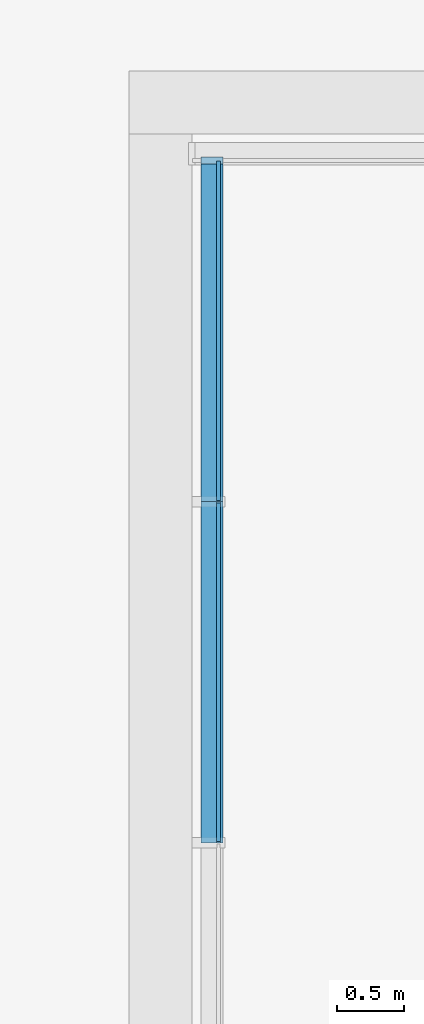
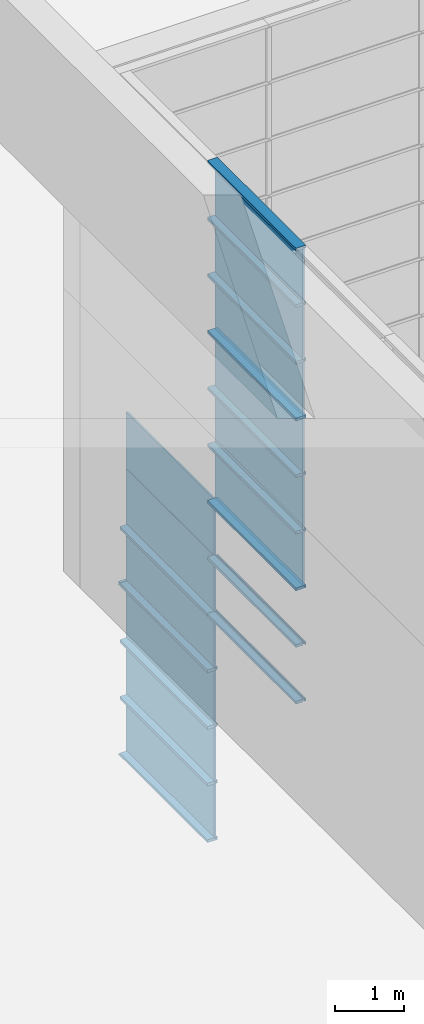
# One storey, part 27 of 105: 29 building element parts, 4 elements without a shape of their own.
"""IFC4 building model written with IfcOpenShell, lengths in millimetres."""

from ifc_helpers import new_model, entity, si_unit, converted_unit, derived_unit, direction, frame, origin_with_axes, place, context, subcontext, project, spatial, triangles, material, element, aggregate, save


model = new_model("IFC4")

# Units and contexts
model_context = context("Model", 3, precision=1e-05, world=origin_with_axes(), true_north=direction((0.0, 1.0)))
body_context = subcontext(model_context, "Body", "Model", "MODEL_VIEW")
ifc_project = project(units=[si_unit("LENGTHUNIT", "METRE", prefix="MILLI"), si_unit("AREAUNIT", "SQUARE_METRE"), si_unit("VOLUMEUNIT", "CUBIC_METRE"), converted_unit("PLANEANGLEUNIT", "DEGREE", entity("IfcLengthMeasure", 0.017453), si_unit("PLANEANGLEUNIT", "RADIAN"), dimensions=[0, 0, 0, 0, 0, 0, 0]), si_unit("SOLIDANGLEUNIT", "STERADIAN"), si_unit("MASSUNIT", "GRAM"), si_unit("TIMEUNIT", "SECOND"), si_unit("THERMODYNAMICTEMPERATUREUNIT", "DEGREE_CELSIUS"), si_unit("LUMINOUSINTENSITYUNIT", "LUMEN"), si_unit("POWERUNIT", "WATT"), derived_unit("THERMALTRANSMITTANCEUNIT", [(si_unit("POWERUNIT", "WATT"), 1), (si_unit("THERMODYNAMICTEMPERATUREUNIT", "KELVIN"), -1), (si_unit("AREAUNIT", "SQUARE_METRE"), -1)])], contexts=[model_context])

# Site, building, storey
site_placement = place(None, origin_with_axes())
site = spatial("IfcSite", under=ifc_project, at=site_placement, Name="Default Site", CompositionType="ELEMENT")
building_placement = place(site_placement, origin_with_axes())
building = spatial("IfcBuilding", under=site, at=building_placement, Name="Default Building", CompositionType="ELEMENT")
storey_placement = place(building_placement, origin_with_axes())
storey = spatial("IfcBuildingStorey", under=building, at=storey_placement, Name="OG - Story", CompositionType="ELEMENT", Elevation=0.0)

# Curtain wall, building element parts
curtain_wall_1_placement = place(storey_placement, origin_with_axes())
curtain_wall_1 = element("IfcCurtainWall", 1, at=curtain_wall_1_placement, inside=storey, Name="Fassade-006", PredefinedType="NOTDEFINED")
ifc_material_1 = material(Name="Normalglas")
building_element_part_1_placement = place(curtain_wall_1_placement, frame((51421.391327, -39309.262838, 0.0), z_axis=(0.0, 0.0, 1.0), x_axis=(1.0, 0.0, 0.0)))
building_element_part_1 = element("IfcBuildingElementPart", 2, at=building_element_part_1_placement, material=ifc_material_1, Name="Normalglas", PredefinedType="NOTDEFINED", context=body_context, shape_type="Tessellation", body=[
    triangles([(-14.999, 11515.0, 995.0), (-14.999, 8970.0, 995.0), (15.0, 8970.0, 995.0), (15.0, 11515.0, 995.0), (-14.999, 11515.0, 5.0), (-14.999, 8970.0, 5.0), (15.0, 8970.0, 5.0), (15.0, 11515.0, 5.0)], [[1, 2, 3], [1, 3, 4], [1, 5, 6], [1, 6, 2], [2, 6, 7], [2, 7, 3], [4, 3, 7], [4, 7, 8], [5, 1, 4], [5, 4, 8], [6, 5, 8], [6, 8, 7]], closed=False),
])
building_element_part_2_placement = place(curtain_wall_1_placement, frame((51421.391327, -39309.262838, 0.0), z_axis=(0.0, 0.0, 1.0), x_axis=(1.0, 0.0, 0.0)))
building_element_part_2 = element("IfcBuildingElementPart", 3, at=building_element_part_2_placement, material=ifc_material_1, Name="Normalglas", PredefinedType="NOTDEFINED", context=body_context, shape_type="Tessellation", body=[
    triangles([(-14.999, 11515.0, 1995.0), (-14.999, 8970.0, 1995.0), (15.0, 8970.0, 1995.0), (15.0, 11515.0, 1995.0), (-14.999, 11515.0, 1005.0), (-14.999, 8970.0, 1005.0), (15.0, 8970.0, 1005.0), (15.0, 11515.0, 1005.0)], [[1, 2, 3], [1, 3, 4], [1, 5, 6], [1, 6, 2], [2, 6, 7], [2, 7, 3], [4, 3, 7], [4, 7, 8], [5, 1, 4], [5, 4, 8], [6, 5, 8], [6, 8, 7]], closed=False),
])
building_element_part_3_placement = place(curtain_wall_1_placement, frame((51421.391327, -39309.262838, 0.0), z_axis=(0.0, 0.0, 1.0), x_axis=(1.0, 0.0, 0.0)))
building_element_part_3 = element("IfcBuildingElementPart", 4, at=building_element_part_3_placement, material=ifc_material_1, Name="Normalglas", PredefinedType="NOTDEFINED", context=body_context, shape_type="Tessellation", body=[
    triangles([(-14.999, 11515.0, 2995.0), (-14.999, 8970.0, 2995.0), (15.0, 8970.0, 2995.0), (15.0, 11515.0, 2995.0), (-14.999, 11515.0, 2005.0), (-14.999, 8970.0, 2005.0), (15.0, 8970.0, 2005.0), (15.0, 11515.0, 2005.0)], [[1, 2, 3], [1, 3, 4], [1, 5, 6], [1, 6, 2], [2, 6, 7], [2, 7, 3], [4, 3, 7], [4, 7, 8], [5, 1, 4], [5, 4, 8], [6, 5, 8], [6, 8, 7]], closed=False),
])
ifc_material_2 = material(Name="Blech")
building_element_part_4_placement = place(curtain_wall_1_placement, frame((51421.391327, -39309.262838, 0.0), z_axis=(0.0, 0.0, 1.0), x_axis=(1.0, 0.0, 0.0)))
building_element_part_4 = element("IfcBuildingElementPart", 5, at=building_element_part_4_placement, material=ifc_material_2, Name="Blech", PredefinedType="NOTDEFINED", context=body_context, shape_type="Tessellation", body=[
    triangles([(15.0, 11515.0, 5.0), (-14.999, 11515.0, 5.0), (-132.999, 11545.0, -24.999), (35.0, 11545.0, -24.999), (35.0, 11495.0, 25.0), (15.0, 11495.0, 25.0), (-132.999, 11495.0, 25.0), (-14.999, 11495.0, 25.0), (-14.999, 8960.0, 5.0), (15.0, 8960.0, 5.0), (15.0, 8960.0, 25.0), (35.0, 8960.0, 25.0), (35.0, 8960.0, -24.999), (-132.999, 8960.0, -24.999), (-132.999, 8960.0, 25.0), (-14.999, 8960.0, 25.0)], [[1, 2, 3], [1, 3, 4], [1, 4, 5], [1, 5, 6], [7, 3, 2], [7, 2, 8], [1, 2, 9], [1, 9, 10], [11, 6, 1], [11, 1, 10], [6, 11, 12], [6, 12, 5], [13, 4, 5], [13, 5, 12], [14, 3, 4], [14, 4, 13], [15, 7, 3], [15, 3, 14], [16, 8, 7], [16, 7, 15], [2, 8, 16], [2, 16, 9], [16, 15, 9], [9, 15, 14], [9, 14, 10], [10, 14, 13], [10, 13, 12], [10, 12, 11]], closed=False),
])
building_element_part_5_placement = place(curtain_wall_1_placement, frame((51421.391327, -39309.262838, 0.0), z_axis=(0.0, 0.0, 1.0), x_axis=(1.0, 0.0, 0.0)))
building_element_part_5 = element("IfcBuildingElementPart", 6, at=building_element_part_5_placement, material=ifc_material_2, Name="Blech", PredefinedType="NOTDEFINED", context=body_context, shape_type="Tessellation", body=[
    triangles([(15.0, 11495.0, 1025.0), (35.0, 11495.0, 1025.0), (15.0, 11495.0, 1005.0), (15.0, 11495.0, 995.0), (-14.999, 11495.0, 1005.0), (-132.999, 11495.0, 1025.0), (-14.999, 11495.0, 1025.0), (35.0, 11495.0, 975.0), (15.0, 11495.0, 975.0), (-14.999, 11495.0, 995.0), (-14.999, 11495.0, 975.0), (-132.999, 11495.0, 975.0), (-14.999, 8960.0, 995.0), (-14.999, 8960.0, 975.0), (-132.999, 8960.0, 975.0), (-132.999, 8960.0, 1025.0), (-14.999, 8960.0, 1025.0), (-14.999, 8960.0, 1005.0), (15.0, 8960.0, 1005.0), (15.0, 8960.0, 1025.0), (35.0, 8960.0, 1025.0), (35.0, 8960.0, 975.0), (15.0, 8960.0, 975.0), (15.0, 8960.0, 995.0)], [[1, 2, 3], [3, 2, 4], [3, 4, 5], [5, 4, 6], [5, 6, 7], [8, 9, 4], [8, 4, 2], [6, 4, 10], [6, 10, 11], [6, 11, 12], [11, 10, 13], [11, 13, 14], [11, 14, 15], [11, 15, 12], [6, 12, 15], [6, 15, 16], [7, 6, 16], [7, 16, 17], [7, 17, 18], [7, 18, 5], [5, 18, 19], [5, 19, 3], [1, 3, 19], [1, 19, 20], [20, 21, 2], [20, 2, 1], [8, 2, 21], [8, 21, 22], [23, 9, 8], [23, 8, 22], [4, 9, 23], [4, 23, 24], [10, 4, 24], [10, 24, 13], [17, 16, 18], [18, 16, 13], [18, 13, 19], [19, 13, 24], [19, 24, 21], [21, 24, 23], [21, 23, 22], [15, 14, 13], [15, 13, 16], [19, 21, 20]], closed=False),
])
building_element_part_6_placement = place(curtain_wall_1_placement, frame((51421.391327, -39309.262838, 0.0), z_axis=(0.0, 0.0, 1.0), x_axis=(1.0, 0.0, 0.0)))
building_element_part_6 = element("IfcBuildingElementPart", 7, at=building_element_part_6_placement, material=ifc_material_2, Name="Blech", PredefinedType="NOTDEFINED", context=body_context, shape_type="Tessellation", body=[
    triangles([(15.0, 11495.0, 2025.0), (35.0, 11495.0, 2025.0), (15.0, 11495.0, 2005.0), (15.0, 11495.0, 1995.0), (-14.999, 11495.0, 2005.0), (-132.999, 11495.0, 2025.0), (-14.999, 11495.0, 2025.0), (35.0, 11495.0, 1975.0), (15.0, 11495.0, 1975.0), (-14.999, 11495.0, 1995.0), (-14.999, 11495.0, 1975.0), (-132.999, 11495.0, 1975.0), (-14.999, 8960.0, 1995.0), (-14.999, 8960.0, 1975.0), (-132.999, 8960.0, 1975.0), (-132.999, 8960.0, 2025.0), (-14.999, 8960.0, 2025.0), (-14.999, 8960.0, 2005.0), (15.0, 8960.0, 2005.0), (15.0, 8960.0, 2025.0), (35.0, 8960.0, 2025.0), (35.0, 8960.0, 1975.0), (15.0, 8960.0, 1975.0), (15.0, 8960.0, 1995.0)], [[1, 2, 3], [3, 2, 4], [3, 4, 5], [5, 4, 6], [5, 6, 7], [8, 9, 4], [8, 4, 2], [6, 4, 10], [6, 10, 11], [6, 11, 12], [11, 10, 13], [11, 13, 14], [11, 14, 15], [11, 15, 12], [6, 12, 15], [6, 15, 16], [7, 6, 16], [7, 16, 17], [7, 17, 18], [7, 18, 5], [5, 18, 19], [5, 19, 3], [1, 3, 19], [1, 19, 20], [20, 21, 2], [20, 2, 1], [8, 2, 21], [8, 21, 22], [23, 9, 8], [23, 8, 22], [4, 9, 23], [4, 23, 24], [10, 4, 24], [10, 24, 13], [17, 16, 18], [18, 16, 13], [18, 13, 19], [19, 13, 24], [19, 24, 21], [21, 24, 23], [21, 23, 22], [15, 14, 13], [15, 13, 16], [19, 21, 20]], closed=False),
])
building_element_part_7_placement = place(curtain_wall_1_placement, frame((51421.391327, -39309.262838, 0.0), z_axis=(0.0, 0.0, 1.0), x_axis=(1.0, 0.0, 0.0)))
building_element_part_7 = element("IfcBuildingElementPart", 8, at=building_element_part_7_placement, material=ifc_material_2, Name="Blech", PredefinedType="NOTDEFINED", context=body_context, shape_type="Tessellation", body=[
    triangles([(15.0, 11515.0, 2995.0), (-14.999, 11515.0, 2995.0), (-132.999, 11545.0, 3025.0), (35.0, 11545.0, 3025.0), (35.0, 11495.0, 2975.0), (15.0, 11495.0, 2975.0), (-14.999, 11495.0, 2975.0), (-132.999, 11495.0, 2975.0), (-14.999, 8960.0, 2995.0), (-14.999, 8960.0, 2975.0), (-132.999, 8960.0, 2975.0), (-132.999, 8960.0, 3025.0), (35.0, 8960.0, 3025.0), (35.0, 8960.0, 2975.0), (15.0, 8960.0, 2975.0), (15.0, 8960.0, 2995.0)], [[1, 2, 3], [1, 3, 4], [1, 4, 5], [1, 5, 6], [7, 8, 3], [7, 3, 2], [2, 9, 10], [2, 10, 7], [10, 11, 8], [10, 8, 7], [11, 12, 3], [11, 3, 8], [12, 13, 4], [12, 4, 3], [13, 14, 5], [13, 5, 4], [6, 5, 14], [6, 14, 15], [15, 16, 1], [15, 1, 6], [1, 16, 9], [1, 9, 2], [16, 9, 12], [16, 12, 13], [16, 13, 14], [16, 14, 15], [10, 11, 12], [10, 12, 9]], closed=False),
])
aggregate(curtain_wall_1, [building_element_part_1, building_element_part_2, building_element_part_3, building_element_part_4, building_element_part_5, building_element_part_6, building_element_part_7])

curtain_wall_2_placement = place(storey_placement, origin_with_axes())
curtain_wall_2 = element("IfcCurtainWall", 9, at=curtain_wall_2_placement, inside=storey, Name="Fassade-006", PredefinedType="NOTDEFINED")
building_element_part_8_placement = place(curtain_wall_2_placement, frame((51421.391327, -39309.262838, 3000.0), z_axis=(0.0, 0.0, 1.0), x_axis=(1.0, 0.0, 0.0)))
building_element_part_8 = element("IfcBuildingElementPart", 10, at=building_element_part_8_placement, material=ifc_material_1, Name="Normalglas", PredefinedType="NOTDEFINED", context=body_context, shape_type="Tessellation", body=[
    triangles([(-14.999, 11515.0, 995.0), (-14.999, 8970.0, 995.0), (15.0, 8970.0, 995.0), (15.0, 11515.0, 995.0), (-14.999, 11515.0, 5.0), (-14.999, 8970.0, 5.0), (15.0, 8970.0, 5.0), (15.0, 11515.0, 5.0)], [[1, 2, 3], [1, 3, 4], [1, 5, 6], [1, 6, 2], [2, 6, 7], [2, 7, 3], [4, 3, 7], [4, 7, 8], [5, 1, 4], [5, 4, 8], [6, 5, 8], [6, 8, 7]], closed=False),
])
building_element_part_9_placement = place(curtain_wall_2_placement, frame((51421.391327, -39309.262838, 3000.0), z_axis=(0.0, 0.0, 1.0), x_axis=(1.0, 0.0, 0.0)))
building_element_part_9 = element("IfcBuildingElementPart", 11, at=building_element_part_9_placement, material=ifc_material_1, Name="Normalglas", PredefinedType="NOTDEFINED", context=body_context, shape_type="Tessellation", body=[
    triangles([(-14.999, 11515.0, 1995.0), (-14.999, 8970.0, 1995.0), (15.0, 8970.0, 1995.0), (15.0, 11515.0, 1995.0), (-14.999, 11515.0, 1005.0), (-14.999, 8970.0, 1005.0), (15.0, 8970.0, 1005.0), (15.0, 11515.0, 1005.0)], [[1, 2, 3], [1, 3, 4], [1, 5, 6], [1, 6, 2], [2, 6, 7], [2, 7, 3], [4, 3, 7], [4, 7, 8], [5, 1, 4], [5, 4, 8], [6, 5, 8], [6, 8, 7]], closed=False),
])
building_element_part_10_placement = place(curtain_wall_2_placement, frame((51421.391327, -39309.262838, 3000.0), z_axis=(0.0, 0.0, 1.0), x_axis=(1.0, 0.0, 0.0)))
building_element_part_10 = element("IfcBuildingElementPart", 12, at=building_element_part_10_placement, material=ifc_material_1, Name="Normalglas", PredefinedType="NOTDEFINED", context=body_context, shape_type="Tessellation", body=[
    triangles([(-14.999, 11515.0, 2995.0), (-14.999, 8970.0, 2995.0), (15.0, 8970.0, 2995.0), (15.0, 11515.0, 2995.0), (-14.999, 11515.0, 2005.0), (-14.999, 8970.0, 2005.0), (15.0, 8970.0, 2005.0), (15.0, 11515.0, 2005.0)], [[1, 2, 3], [1, 3, 4], [1, 5, 6], [1, 6, 2], [2, 6, 7], [2, 7, 3], [4, 3, 7], [4, 7, 8], [5, 1, 4], [5, 4, 8], [6, 5, 8], [6, 8, 7]], closed=False),
])
building_element_part_11_placement = place(curtain_wall_2_placement, frame((51421.391327, -39309.262838, 3000.0), z_axis=(0.0, 0.0, 1.0), x_axis=(1.0, 0.0, 0.0)))
building_element_part_11 = element("IfcBuildingElementPart", 13, at=building_element_part_11_placement, material=ifc_material_2, Name="Blech", PredefinedType="NOTDEFINED", context=body_context, shape_type="Tessellation", body=[
    triangles([(15.0, 11515.0, 5.0), (-14.999, 11515.0, 5.0), (-132.999, 11545.0, -24.999), (35.0, 11545.0, -24.999), (35.0, 11495.0, 25.0), (15.0, 11495.0, 25.0), (-132.999, 11495.0, 25.0), (-14.999, 11495.0, 25.0), (-14.999, 8960.0, 5.0), (15.0, 8960.0, 5.0), (15.0, 8960.0, 25.0), (35.0, 8960.0, 25.0), (35.0, 8960.0, -24.999), (-132.999, 8960.0, -24.999), (-132.999, 8960.0, 25.0), (-14.999, 8960.0, 25.0)], [[1, 2, 3], [1, 3, 4], [1, 4, 5], [1, 5, 6], [7, 3, 2], [7, 2, 8], [1, 2, 9], [1, 9, 10], [11, 6, 1], [11, 1, 10], [6, 11, 12], [6, 12, 5], [13, 4, 5], [13, 5, 12], [14, 3, 4], [14, 4, 13], [15, 7, 3], [15, 3, 14], [16, 8, 7], [16, 7, 15], [2, 8, 16], [2, 16, 9], [16, 15, 9], [9, 15, 14], [9, 14, 10], [10, 14, 13], [10, 13, 12], [10, 12, 11]], closed=False),
])
building_element_part_12_placement = place(curtain_wall_2_placement, frame((51421.391327, -39309.262838, 3000.0), z_axis=(0.0, 0.0, 1.0), x_axis=(1.0, 0.0, 0.0)))
building_element_part_12 = element("IfcBuildingElementPart", 14, at=building_element_part_12_placement, material=ifc_material_2, Name="Blech", PredefinedType="NOTDEFINED", context=body_context, shape_type="Tessellation", body=[
    triangles([(15.0, 8960.0, 1025.0), (35.0, 8960.0, 1025.0), (15.0, 8960.0, 1005.0), (15.0, 8960.0, 995.0), (-14.999, 8960.0, 1005.0), (-132.999, 8960.0, 1025.0), (-14.999, 8960.0, 1025.0), (35.0, 8960.0, 975.0), (15.0, 8960.0, 975.0), (-14.999, 8960.0, 995.0), (-14.999, 8960.0, 975.0), (-132.999, 8960.0, 975.0), (-14.999, 6400.0, 995.0), (-14.999, 6400.0, 975.0), (-132.999, 6400.0, 975.0), (-132.999, 6400.0, 1025.0), (-14.999, 6400.0, 1025.0), (-14.999, 6400.0, 1005.0), (15.0, 6400.0, 1005.0), (15.0, 6400.0, 1025.0), (35.0, 6400.0, 1025.0), (35.0, 6400.0, 975.0), (15.0, 6400.0, 975.0), (15.0, 6400.0, 995.0)], [[1, 2, 3], [3, 2, 4], [3, 4, 5], [5, 4, 6], [5, 6, 7], [8, 9, 4], [8, 4, 2], [6, 4, 10], [6, 10, 11], [6, 11, 12], [11, 10, 13], [11, 13, 14], [11, 14, 15], [11, 15, 12], [6, 12, 15], [6, 15, 16], [7, 6, 16], [7, 16, 17], [7, 17, 18], [7, 18, 5], [5, 18, 19], [5, 19, 3], [1, 3, 19], [1, 19, 20], [20, 21, 2], [20, 2, 1], [8, 2, 21], [8, 21, 22], [23, 9, 8], [23, 8, 22], [4, 9, 23], [4, 23, 24], [10, 4, 24], [10, 24, 13], [17, 16, 18], [18, 16, 13], [18, 13, 19], [19, 13, 24], [19, 24, 21], [21, 24, 23], [21, 23, 22], [15, 14, 13], [15, 13, 16], [19, 21, 20]], closed=False),
])
building_element_part_13_placement = place(curtain_wall_2_placement, frame((51421.391327, -39309.262838, 3000.0), z_axis=(0.0, 0.0, 1.0), x_axis=(1.0, 0.0, 0.0)))
building_element_part_13 = element("IfcBuildingElementPart", 15, at=building_element_part_13_placement, material=ifc_material_2, Name="Blech", PredefinedType="NOTDEFINED", context=body_context, shape_type="Tessellation", body=[
    triangles([(15.0, 11495.0, 1025.0), (35.0, 11495.0, 1025.0), (15.0, 11495.0, 1005.0), (15.0, 11495.0, 995.0), (-14.999, 11495.0, 1005.0), (-132.999, 11495.0, 1025.0), (-14.999, 11495.0, 1025.0), (35.0, 11495.0, 975.0), (15.0, 11495.0, 975.0), (-14.999, 11495.0, 995.0), (-14.999, 11495.0, 975.0), (-132.999, 11495.0, 975.0), (-14.999, 8960.0, 995.0), (-14.999, 8960.0, 975.0), (-132.999, 8960.0, 975.0), (-132.999, 8960.0, 1025.0), (-14.999, 8960.0, 1025.0), (-14.999, 8960.0, 1005.0), (15.0, 8960.0, 1005.0), (15.0, 8960.0, 1025.0), (35.0, 8960.0, 1025.0), (35.0, 8960.0, 975.0), (15.0, 8960.0, 975.0), (15.0, 8960.0, 995.0)], [[1, 2, 3], [3, 2, 4], [3, 4, 5], [5, 4, 6], [5, 6, 7], [8, 9, 4], [8, 4, 2], [6, 4, 10], [6, 10, 11], [6, 11, 12], [11, 10, 13], [11, 13, 14], [11, 14, 15], [11, 15, 12], [6, 12, 15], [6, 15, 16], [7, 6, 16], [7, 16, 17], [7, 17, 18], [7, 18, 5], [5, 18, 19], [5, 19, 3], [1, 3, 19], [1, 19, 20], [20, 21, 2], [20, 2, 1], [8, 2, 21], [8, 21, 22], [23, 9, 8], [23, 8, 22], [4, 9, 23], [4, 23, 24], [10, 4, 24], [10, 24, 13], [17, 16, 18], [18, 16, 13], [18, 13, 19], [19, 13, 24], [19, 24, 21], [21, 24, 23], [21, 23, 22], [15, 14, 13], [15, 13, 16], [19, 21, 20]], closed=False),
])
building_element_part_14_placement = place(curtain_wall_2_placement, frame((51421.391327, -39309.262838, 3000.0), z_axis=(0.0, 0.0, 1.0), x_axis=(1.0, 0.0, 0.0)))
building_element_part_14 = element("IfcBuildingElementPart", 16, at=building_element_part_14_placement, material=ifc_material_2, Name="Blech", PredefinedType="NOTDEFINED", context=body_context, shape_type="Tessellation", body=[
    triangles([(15.0, 8960.0, 2025.0), (35.0, 8960.0, 2025.0), (15.0, 8960.0, 2005.0), (15.0, 8960.0, 1995.0), (-14.999, 8960.0, 2005.0), (-132.999, 8960.0, 2025.0), (-14.999, 8960.0, 2025.0), (35.0, 8960.0, 1975.0), (15.0, 8960.0, 1975.0), (-14.999, 8960.0, 1995.0), (-14.999, 8960.0, 1975.0), (-132.999, 8960.0, 1975.0), (-14.999, 6400.0, 1995.0), (-14.999, 6400.0, 1975.0), (-132.999, 6400.0, 1975.0), (-132.999, 6400.0, 2025.0), (-14.999, 6400.0, 2025.0), (-14.999, 6400.0, 2005.0), (15.0, 6400.0, 2005.0), (15.0, 6400.0, 2025.0), (35.0, 6400.0, 2025.0), (35.0, 6400.0, 1975.0), (15.0, 6400.0, 1975.0), (15.0, 6400.0, 1995.0)], [[1, 2, 3], [3, 2, 4], [3, 4, 5], [5, 4, 6], [5, 6, 7], [8, 9, 4], [8, 4, 2], [6, 4, 10], [6, 10, 11], [6, 11, 12], [11, 10, 13], [11, 13, 14], [11, 14, 15], [11, 15, 12], [6, 12, 15], [6, 15, 16], [7, 6, 16], [7, 16, 17], [7, 17, 18], [7, 18, 5], [5, 18, 19], [5, 19, 3], [1, 3, 19], [1, 19, 20], [20, 21, 2], [20, 2, 1], [8, 2, 21], [8, 21, 22], [23, 9, 8], [23, 8, 22], [4, 9, 23], [4, 23, 24], [10, 4, 24], [10, 24, 13], [17, 16, 18], [18, 16, 13], [18, 13, 19], [19, 13, 24], [19, 24, 21], [21, 24, 23], [21, 23, 22], [15, 14, 13], [15, 13, 16], [19, 21, 20]], closed=False),
])
building_element_part_15_placement = place(curtain_wall_2_placement, frame((51421.391327, -39309.262838, 3000.0), z_axis=(0.0, 0.0, 1.0), x_axis=(1.0, 0.0, 0.0)))
building_element_part_15 = element("IfcBuildingElementPart", 17, at=building_element_part_15_placement, material=ifc_material_2, Name="Blech", PredefinedType="NOTDEFINED", context=body_context, shape_type="Tessellation", body=[
    triangles([(15.0, 8960.0, 2995.0), (-14.999, 8960.0, 2995.0), (-132.999, 8960.0, 3025.0), (35.0, 8960.0, 3025.0), (35.0, 8960.0, 2975.0), (15.0, 8960.0, 2975.0), (-14.999, 8960.0, 2975.0), (-132.999, 8960.0, 2975.0), (-14.999, 6400.0, 2995.0), (-14.999, 6400.0, 2975.0), (-132.999, 6400.0, 2975.0), (-132.999, 6400.0, 3025.0), (35.0, 6400.0, 3025.0), (35.0, 6400.0, 2975.0), (15.0, 6400.0, 2975.0), (15.0, 6400.0, 2995.0)], [[1, 2, 3], [1, 3, 4], [1, 4, 5], [1, 5, 6], [7, 8, 3], [7, 3, 2], [2, 9, 10], [2, 10, 7], [10, 11, 8], [10, 8, 7], [11, 12, 3], [11, 3, 8], [12, 13, 4], [12, 4, 3], [13, 14, 5], [13, 5, 4], [6, 5, 14], [6, 14, 15], [15, 16, 1], [15, 1, 6], [1, 16, 9], [1, 9, 2], [16, 9, 12], [16, 12, 13], [16, 13, 14], [16, 14, 15], [10, 11, 12], [10, 12, 9]], closed=False),
])
aggregate(curtain_wall_2, [building_element_part_8, building_element_part_9, building_element_part_10, building_element_part_11, building_element_part_12, building_element_part_13, building_element_part_14, building_element_part_15])

curtain_wall_3_placement = place(storey_placement, origin_with_axes())
curtain_wall_3 = element("IfcCurtainWall", 18, at=curtain_wall_3_placement, inside=storey, Name="Fassade-006", PredefinedType="NOTDEFINED")
building_element_part_16_placement = place(curtain_wall_3_placement, frame((51421.391327, -39309.262838, 6000.0), z_axis=(0.0, 0.0, 1.0), x_axis=(1.0, 0.0, 0.0)))
building_element_part_16 = element("IfcBuildingElementPart", 19, at=building_element_part_16_placement, material=ifc_material_1, Name="Normalglas", PredefinedType="NOTDEFINED", context=body_context, shape_type="Tessellation", body=[
    triangles([(-14.999, 8950.0, 995.0), (-14.999, 6410.0, 995.0), (15.0, 6410.0, 995.0), (15.0, 8950.0, 995.0), (-14.999, 8950.0, 5.0), (-14.999, 6410.0, 5.0), (15.0, 6410.0, 5.0), (15.0, 8950.0, 5.0)], [[1, 2, 3], [1, 3, 4], [1, 5, 6], [1, 6, 2], [2, 6, 7], [2, 7, 3], [4, 3, 7], [4, 7, 8], [5, 1, 4], [5, 4, 8], [6, 5, 8], [6, 8, 7]], closed=False),
])
building_element_part_17_placement = place(curtain_wall_3_placement, frame((51421.391327, -39309.262838, 6000.0), z_axis=(0.0, 0.0, 1.0), x_axis=(1.0, 0.0, 0.0)))
building_element_part_17 = element("IfcBuildingElementPart", 20, at=building_element_part_17_placement, material=ifc_material_1, Name="Normalglas", PredefinedType="NOTDEFINED", context=body_context, shape_type="Tessellation", body=[
    triangles([(-14.999, 8950.0, 1995.0), (-14.999, 6410.0, 1995.0), (15.0, 6410.0, 1995.0), (15.0, 8950.0, 1995.0), (-14.999, 8950.0, 1005.0), (-14.999, 6410.0, 1005.0), (15.0, 6410.0, 1005.0), (15.0, 8950.0, 1005.0)], [[1, 2, 3], [1, 3, 4], [1, 5, 6], [1, 6, 2], [2, 6, 7], [2, 7, 3], [4, 3, 7], [4, 7, 8], [5, 1, 4], [5, 4, 8], [6, 5, 8], [6, 8, 7]], closed=False),
])
building_element_part_18_placement = place(curtain_wall_3_placement, frame((51421.391327, -39309.262838, 6000.0), z_axis=(0.0, 0.0, 1.0), x_axis=(1.0, 0.0, 0.0)))
building_element_part_18 = element("IfcBuildingElementPart", 21, at=building_element_part_18_placement, material=ifc_material_1, Name="Normalglas", PredefinedType="NOTDEFINED", context=body_context, shape_type="Tessellation", body=[
    triangles([(-14.999, 8950.0, 2995.0), (-14.999, 6410.0, 2995.0), (15.0, 6410.0, 2995.0), (15.0, 8950.0, 2995.0), (-14.999, 8950.0, 2005.0), (-14.999, 6410.0, 2005.0), (15.0, 6410.0, 2005.0), (15.0, 8950.0, 2005.0)], [[1, 2, 3], [1, 3, 4], [1, 5, 6], [1, 6, 2], [2, 6, 7], [2, 7, 3], [4, 3, 7], [4, 7, 8], [5, 1, 4], [5, 4, 8], [6, 5, 8], [6, 8, 7]], closed=False),
])
building_element_part_19_placement = place(curtain_wall_3_placement, frame((51421.391327, -39309.262838, 6000.0), z_axis=(0.0, 0.0, 1.0), x_axis=(1.0, 0.0, 0.0)))
building_element_part_19 = element("IfcBuildingElementPart", 22, at=building_element_part_19_placement, material=ifc_material_2, Name="Blech", PredefinedType="NOTDEFINED", context=body_context, shape_type="Tessellation", body=[
    triangles([(15.0, 8960.0, 5.0), (-14.999, 8960.0, 5.0), (-132.999, 8960.0, -24.999), (35.0, 8960.0, -24.999), (35.0, 8960.0, 25.0), (15.0, 8960.0, 25.0), (-132.999, 8960.0, 25.0), (-14.999, 8960.0, 25.0), (-14.999, 6400.0, 5.0), (15.0, 6400.0, 5.0), (15.0, 6400.0, 25.0), (35.0, 6400.0, 25.0), (35.0, 6400.0, -24.999), (-132.999, 6400.0, -24.999), (-132.999, 6400.0, 25.0), (-14.999, 6400.0, 25.0)], [[1, 2, 3], [1, 3, 4], [1, 4, 5], [1, 5, 6], [7, 3, 2], [7, 2, 8], [1, 2, 9], [1, 9, 10], [11, 6, 1], [11, 1, 10], [6, 11, 12], [6, 12, 5], [13, 4, 5], [13, 5, 12], [14, 3, 4], [14, 4, 13], [15, 7, 3], [15, 3, 14], [16, 8, 7], [16, 7, 15], [2, 8, 16], [2, 16, 9], [16, 15, 9], [9, 15, 14], [9, 14, 10], [10, 14, 13], [10, 13, 12], [10, 12, 11]], closed=False),
])
building_element_part_20_placement = place(curtain_wall_3_placement, frame((51421.391327, -39309.262838, 6000.0), z_axis=(0.0, 0.0, 1.0), x_axis=(1.0, 0.0, 0.0)))
building_element_part_20 = element("IfcBuildingElementPart", 23, at=building_element_part_20_placement, material=ifc_material_2, Name="Blech", PredefinedType="NOTDEFINED", context=body_context, shape_type="Tessellation", body=[
    triangles([(15.0, 8960.0, 1025.0), (35.0, 8960.0, 1025.0), (15.0, 8960.0, 1005.0), (15.0, 8960.0, 995.0), (-14.999, 8960.0, 1005.0), (-132.999, 8960.0, 1025.0), (-14.999, 8960.0, 1025.0), (35.0, 8960.0, 975.0), (15.0, 8960.0, 975.0), (-14.999, 8960.0, 995.0), (-14.999, 8960.0, 975.0), (-132.999, 8960.0, 975.0), (-14.999, 6400.0, 995.0), (-14.999, 6400.0, 975.0), (-132.999, 6400.0, 975.0), (-132.999, 6400.0, 1025.0), (-14.999, 6400.0, 1025.0), (-14.999, 6400.0, 1005.0), (15.0, 6400.0, 1005.0), (15.0, 6400.0, 1025.0), (35.0, 6400.0, 1025.0), (35.0, 6400.0, 975.0), (15.0, 6400.0, 975.0), (15.0, 6400.0, 995.0)], [[1, 2, 3], [3, 2, 4], [3, 4, 5], [5, 4, 6], [5, 6, 7], [8, 9, 4], [8, 4, 2], [6, 4, 10], [6, 10, 11], [6, 11, 12], [11, 10, 13], [11, 13, 14], [11, 14, 15], [11, 15, 12], [6, 12, 15], [6, 15, 16], [7, 6, 16], [7, 16, 17], [7, 17, 18], [7, 18, 5], [5, 18, 19], [5, 19, 3], [1, 3, 19], [1, 19, 20], [20, 21, 2], [20, 2, 1], [8, 2, 21], [8, 21, 22], [23, 9, 8], [23, 8, 22], [4, 9, 23], [4, 23, 24], [10, 4, 24], [10, 24, 13], [17, 16, 18], [18, 16, 13], [18, 13, 19], [19, 13, 24], [19, 24, 21], [21, 24, 23], [21, 23, 22], [15, 14, 13], [15, 13, 16], [19, 21, 20]], closed=False),
])
building_element_part_21_placement = place(curtain_wall_3_placement, frame((51421.391327, -39309.262838, 6000.0), z_axis=(0.0, 0.0, 1.0), x_axis=(1.0, 0.0, 0.0)))
building_element_part_21 = element("IfcBuildingElementPart", 24, at=building_element_part_21_placement, material=ifc_material_2, Name="Blech", PredefinedType="NOTDEFINED", context=body_context, shape_type="Tessellation", body=[
    triangles([(15.0, 8960.0, 2025.0), (35.0, 8960.0, 2025.0), (15.0, 8960.0, 2005.0), (15.0, 8960.0, 1995.0), (-14.999, 8960.0, 2005.0), (-132.999, 8960.0, 2025.0), (-14.999, 8960.0, 2025.0), (35.0, 8960.0, 1975.0), (15.0, 8960.0, 1975.0), (-14.999, 8960.0, 1995.0), (-14.999, 8960.0, 1975.0), (-132.999, 8960.0, 1975.0), (-14.999, 6400.0, 1995.0), (-14.999, 6400.0, 1975.0), (-132.999, 6400.0, 1975.0), (-132.999, 6400.0, 2025.0), (-14.999, 6400.0, 2025.0), (-14.999, 6400.0, 2005.0), (15.0, 6400.0, 2005.0), (15.0, 6400.0, 2025.0), (35.0, 6400.0, 2025.0), (35.0, 6400.0, 1975.0), (15.0, 6400.0, 1975.0), (15.0, 6400.0, 1995.0)], [[1, 2, 3], [3, 2, 4], [3, 4, 5], [5, 4, 6], [5, 6, 7], [8, 9, 4], [8, 4, 2], [6, 4, 10], [6, 10, 11], [6, 11, 12], [11, 10, 13], [11, 13, 14], [11, 14, 15], [11, 15, 12], [6, 12, 15], [6, 15, 16], [7, 6, 16], [7, 16, 17], [7, 17, 18], [7, 18, 5], [5, 18, 19], [5, 19, 3], [1, 3, 19], [1, 19, 20], [20, 21, 2], [20, 2, 1], [8, 2, 21], [8, 21, 22], [23, 9, 8], [23, 8, 22], [4, 9, 23], [4, 23, 24], [10, 4, 24], [10, 24, 13], [17, 16, 18], [18, 16, 13], [18, 13, 19], [19, 13, 24], [19, 24, 21], [21, 24, 23], [21, 23, 22], [15, 14, 13], [15, 13, 16], [19, 21, 20]], closed=False),
])
building_element_part_22_placement = place(curtain_wall_3_placement, frame((51421.391327, -39309.262838, 6000.0), z_axis=(0.0, 0.0, 1.0), x_axis=(1.0, 0.0, 0.0)))
building_element_part_22 = element("IfcBuildingElementPart", 25, at=building_element_part_22_placement, material=ifc_material_2, Name="Blech", PredefinedType="NOTDEFINED", context=body_context, shape_type="Tessellation", body=[
    triangles([(15.0, 8960.0, 2995.0), (-14.999, 8960.0, 2995.0), (-132.999, 8960.0, 3025.0), (35.0, 8960.0, 3025.0), (35.0, 8960.0, 2975.0), (15.0, 8960.0, 2975.0), (-14.999, 8960.0, 2975.0), (-132.999, 8960.0, 2975.0), (-14.999, 6400.0, 2995.0), (-14.999, 6400.0, 2975.0), (-132.999, 6400.0, 2975.0), (-132.999, 6400.0, 3025.0), (35.0, 6400.0, 3025.0), (35.0, 6400.0, 2975.0), (15.0, 6400.0, 2975.0), (15.0, 6400.0, 2995.0)], [[1, 2, 3], [1, 3, 4], [1, 4, 5], [1, 5, 6], [7, 8, 3], [7, 3, 2], [2, 9, 10], [2, 10, 7], [10, 11, 8], [10, 8, 7], [11, 12, 3], [11, 3, 8], [12, 13, 4], [12, 4, 3], [13, 14, 5], [13, 5, 4], [6, 5, 14], [6, 14, 15], [15, 16, 1], [15, 1, 6], [1, 16, 9], [1, 9, 2], [16, 9, 12], [16, 12, 13], [16, 13, 14], [16, 14, 15], [10, 11, 12], [10, 12, 9]], closed=False),
])
aggregate(curtain_wall_3, [building_element_part_16, building_element_part_17, building_element_part_18, building_element_part_19, building_element_part_20, building_element_part_21, building_element_part_22])

curtain_wall_4_placement = place(storey_placement, origin_with_axes())
curtain_wall_4 = element("IfcCurtainWall", 26, at=curtain_wall_4_placement, inside=storey, Name="Fassade-006", PredefinedType="NOTDEFINED")
building_element_part_23_placement = place(curtain_wall_4_placement, frame((51421.391327, -39309.262838, 9000.0), z_axis=(0.0, 0.0, 1.0), x_axis=(1.0, 0.0, 0.0)))
building_element_part_23 = element("IfcBuildingElementPart", 27, at=building_element_part_23_placement, material=ifc_material_1, Name="Normalglas", PredefinedType="NOTDEFINED", context=body_context, shape_type="Tessellation", body=[
    triangles([(-14.999, 8950.0, 995.0), (-14.999, 6410.0, 995.0), (15.0, 6410.0, 995.0), (15.0, 8950.0, 995.0), (-14.999, 8950.0, 5.0), (-14.999, 6410.0, 5.0), (15.0, 6410.0, 5.0), (15.0, 8950.0, 5.0)], [[1, 2, 3], [1, 3, 4], [1, 5, 6], [1, 6, 2], [2, 6, 7], [2, 7, 3], [4, 3, 7], [4, 7, 8], [5, 1, 4], [5, 4, 8], [6, 5, 8], [6, 8, 7]], closed=False),
])
building_element_part_24_placement = place(curtain_wall_4_placement, frame((51421.391327, -39309.262838, 9000.0), z_axis=(0.0, 0.0, 1.0), x_axis=(1.0, 0.0, 0.0)))
building_element_part_24 = element("IfcBuildingElementPart", 28, at=building_element_part_24_placement, material=ifc_material_1, Name="Normalglas", PredefinedType="NOTDEFINED", context=body_context, shape_type="Tessellation", body=[
    triangles([(-14.999, 8950.0, 1995.0), (-14.999, 6410.0, 1995.0), (15.0, 6410.0, 1995.0), (15.0, 8950.0, 1995.0), (-14.999, 8950.0, 1005.0), (-14.999, 6410.0, 1005.0), (15.0, 6410.0, 1005.0), (15.0, 8950.0, 1005.0)], [[1, 2, 3], [1, 3, 4], [1, 5, 6], [1, 6, 2], [2, 6, 7], [2, 7, 3], [4, 3, 7], [4, 7, 8], [5, 1, 4], [5, 4, 8], [6, 5, 8], [6, 8, 7]], closed=False),
])
building_element_part_25_placement = place(curtain_wall_4_placement, frame((51421.391327, -39309.262838, 9000.0), z_axis=(0.0, 0.0, 1.0), x_axis=(1.0, 0.0, 0.0)))
building_element_part_25 = element("IfcBuildingElementPart", 29, at=building_element_part_25_placement, material=ifc_material_1, Name="Normalglas", PredefinedType="NOTDEFINED", context=body_context, shape_type="Tessellation", body=[
    triangles([(-14.999, 8950.0, 2995.0), (-14.999, 6410.0, 2995.0), (15.0, 6410.0, 2995.0), (15.0, 8950.0, 2995.0), (-14.999, 8950.0, 2005.0), (-14.999, 6410.0, 2005.0), (15.0, 6410.0, 2005.0), (15.0, 8950.0, 2005.0)], [[1, 2, 3], [1, 3, 4], [1, 5, 6], [1, 6, 2], [2, 6, 7], [2, 7, 3], [4, 3, 7], [4, 7, 8], [5, 1, 4], [5, 4, 8], [6, 5, 8], [6, 8, 7]], closed=False),
])
building_element_part_26_placement = place(curtain_wall_4_placement, frame((51421.391327, -39309.262838, 9000.0), z_axis=(0.0, 0.0, 1.0), x_axis=(1.0, 0.0, 0.0)))
building_element_part_26 = element("IfcBuildingElementPart", 30, at=building_element_part_26_placement, material=ifc_material_2, Name="Blech", PredefinedType="NOTDEFINED", context=body_context, shape_type="Tessellation", body=[
    triangles([(15.0, 8960.0, 5.0), (-14.999, 8960.0, 5.0), (-132.999, 8960.0, -24.999), (35.0, 8960.0, -24.999), (35.0, 8960.0, 25.0), (15.0, 8960.0, 25.0), (-132.999, 8960.0, 25.0), (-14.999, 8960.0, 25.0), (-14.999, 6400.0, 5.0), (15.0, 6400.0, 5.0), (15.0, 6400.0, 25.0), (35.0, 6400.0, 25.0), (35.0, 6400.0, -24.999), (-132.999, 6400.0, -24.999), (-132.999, 6400.0, 25.0), (-14.999, 6400.0, 25.0)], [[1, 2, 3], [1, 3, 4], [1, 4, 5], [1, 5, 6], [7, 3, 2], [7, 2, 8], [1, 2, 9], [1, 9, 10], [11, 6, 1], [11, 1, 10], [6, 11, 12], [6, 12, 5], [13, 4, 5], [13, 5, 12], [14, 3, 4], [14, 4, 13], [15, 7, 3], [15, 3, 14], [16, 8, 7], [16, 7, 15], [2, 8, 16], [2, 16, 9], [16, 15, 9], [9, 15, 14], [9, 14, 10], [10, 14, 13], [10, 13, 12], [10, 12, 11]], closed=False),
])
building_element_part_27_placement = place(curtain_wall_4_placement, frame((51421.391327, -39309.262838, 9000.0), z_axis=(0.0, 0.0, 1.0), x_axis=(1.0, 0.0, 0.0)))
building_element_part_27 = element("IfcBuildingElementPart", 31, at=building_element_part_27_placement, material=ifc_material_2, Name="Blech", PredefinedType="NOTDEFINED", context=body_context, shape_type="Tessellation", body=[
    triangles([(15.0, 8960.0, 1025.0), (35.0, 8960.0, 1025.0), (15.0, 8960.0, 1005.0), (15.0, 8960.0, 995.0), (-14.999, 8960.0, 1005.0), (-132.999, 8960.0, 1025.0), (-14.999, 8960.0, 1025.0), (35.0, 8960.0, 975.0), (15.0, 8960.0, 975.0), (-14.999, 8960.0, 995.0), (-14.999, 8960.0, 975.0), (-132.999, 8960.0, 975.0), (-14.999, 6400.0, 995.0), (-14.999, 6400.0, 975.0), (-132.999, 6400.0, 975.0), (-132.999, 6400.0, 1025.0), (-14.999, 6400.0, 1025.0), (-14.999, 6400.0, 1005.0), (15.0, 6400.0, 1005.0), (15.0, 6400.0, 1025.0), (35.0, 6400.0, 1025.0), (35.0, 6400.0, 975.0), (15.0, 6400.0, 975.0), (15.0, 6400.0, 995.0)], [[1, 2, 3], [3, 2, 4], [3, 4, 5], [5, 4, 6], [5, 6, 7], [8, 9, 4], [8, 4, 2], [6, 4, 10], [6, 10, 11], [6, 11, 12], [11, 10, 13], [11, 13, 14], [11, 14, 15], [11, 15, 12], [6, 12, 15], [6, 15, 16], [7, 6, 16], [7, 16, 17], [7, 17, 18], [7, 18, 5], [5, 18, 19], [5, 19, 3], [1, 3, 19], [1, 19, 20], [20, 21, 2], [20, 2, 1], [8, 2, 21], [8, 21, 22], [23, 9, 8], [23, 8, 22], [4, 9, 23], [4, 23, 24], [10, 4, 24], [10, 24, 13], [17, 16, 18], [18, 16, 13], [18, 13, 19], [19, 13, 24], [19, 24, 21], [21, 24, 23], [21, 23, 22], [15, 14, 13], [15, 13, 16], [19, 21, 20]], closed=False),
])
building_element_part_28_placement = place(curtain_wall_4_placement, frame((51421.391327, -39309.262838, 9000.0), z_axis=(0.0, 0.0, 1.0), x_axis=(1.0, 0.0, 0.0)))
building_element_part_28 = element("IfcBuildingElementPart", 32, at=building_element_part_28_placement, material=ifc_material_2, Name="Blech", PredefinedType="NOTDEFINED", context=body_context, shape_type="Tessellation", body=[
    triangles([(15.0, 8960.0, 2025.0), (35.0, 8960.0, 2025.0), (15.0, 8960.0, 2005.0), (15.0, 8960.0, 1995.0), (-14.999, 8960.0, 2005.0), (-132.999, 8960.0, 2025.0), (-14.999, 8960.0, 2025.0), (35.0, 8960.0, 1975.0), (15.0, 8960.0, 1975.0), (-14.999, 8960.0, 1995.0), (-14.999, 8960.0, 1975.0), (-132.999, 8960.0, 1975.0), (-14.999, 6400.0, 1995.0), (-14.999, 6400.0, 1975.0), (-132.999, 6400.0, 1975.0), (-132.999, 6400.0, 2025.0), (-14.999, 6400.0, 2025.0), (-14.999, 6400.0, 2005.0), (15.0, 6400.0, 2005.0), (15.0, 6400.0, 2025.0), (35.0, 6400.0, 2025.0), (35.0, 6400.0, 1975.0), (15.0, 6400.0, 1975.0), (15.0, 6400.0, 1995.0)], [[1, 2, 3], [3, 2, 4], [3, 4, 5], [5, 4, 6], [5, 6, 7], [8, 9, 4], [8, 4, 2], [6, 4, 10], [6, 10, 11], [6, 11, 12], [11, 10, 13], [11, 13, 14], [11, 14, 15], [11, 15, 12], [6, 12, 15], [6, 15, 16], [7, 6, 16], [7, 16, 17], [7, 17, 18], [7, 18, 5], [5, 18, 19], [5, 19, 3], [1, 3, 19], [1, 19, 20], [20, 21, 2], [20, 2, 1], [8, 2, 21], [8, 21, 22], [23, 9, 8], [23, 8, 22], [4, 9, 23], [4, 23, 24], [10, 4, 24], [10, 24, 13], [17, 16, 18], [18, 16, 13], [18, 13, 19], [19, 13, 24], [19, 24, 21], [21, 24, 23], [21, 23, 22], [15, 14, 13], [15, 13, 16], [19, 21, 20]], closed=False),
])
building_element_part_29_placement = place(curtain_wall_4_placement, frame((51421.391327, -39309.262838, 9000.0), z_axis=(0.0, 0.0, 1.0), x_axis=(1.0, 0.0, 0.0)))
building_element_part_29 = element("IfcBuildingElementPart", 33, at=building_element_part_29_placement, material=ifc_material_2, Name="Blech", PredefinedType="NOTDEFINED", context=body_context, shape_type="Tessellation", body=[
    triangles([(15.0, 8960.0, 2995.0), (-14.999, 8960.0, 2995.0), (-132.999, 8960.0, 3025.0), (35.0, 8960.0, 3025.0), (35.0, 8960.0, 2975.0), (15.0, 8960.0, 2975.0), (-14.999, 8960.0, 2975.0), (-132.999, 8960.0, 2975.0), (-14.999, 6400.0, 2995.0), (-14.999, 6400.0, 2975.0), (-132.999, 6400.0, 2975.0), (-132.999, 6400.0, 3025.0), (35.0, 6400.0, 3025.0), (35.0, 6400.0, 2975.0), (15.0, 6400.0, 2975.0), (15.0, 6400.0, 2995.0)], [[1, 2, 3], [1, 3, 4], [1, 4, 5], [1, 5, 6], [7, 8, 3], [7, 3, 2], [2, 9, 10], [2, 10, 7], [10, 11, 8], [10, 8, 7], [11, 12, 3], [11, 3, 8], [12, 13, 4], [12, 4, 3], [13, 14, 5], [13, 5, 4], [6, 5, 14], [6, 14, 15], [15, 16, 1], [15, 1, 6], [1, 16, 9], [1, 9, 2], [16, 9, 12], [16, 12, 13], [16, 13, 14], [16, 14, 15], [10, 11, 12], [10, 12, 9]], closed=False),
])
aggregate(curtain_wall_4, [building_element_part_23, building_element_part_24, building_element_part_25, building_element_part_26, building_element_part_27, building_element_part_28, building_element_part_29])

save(model, "model.ifc")
